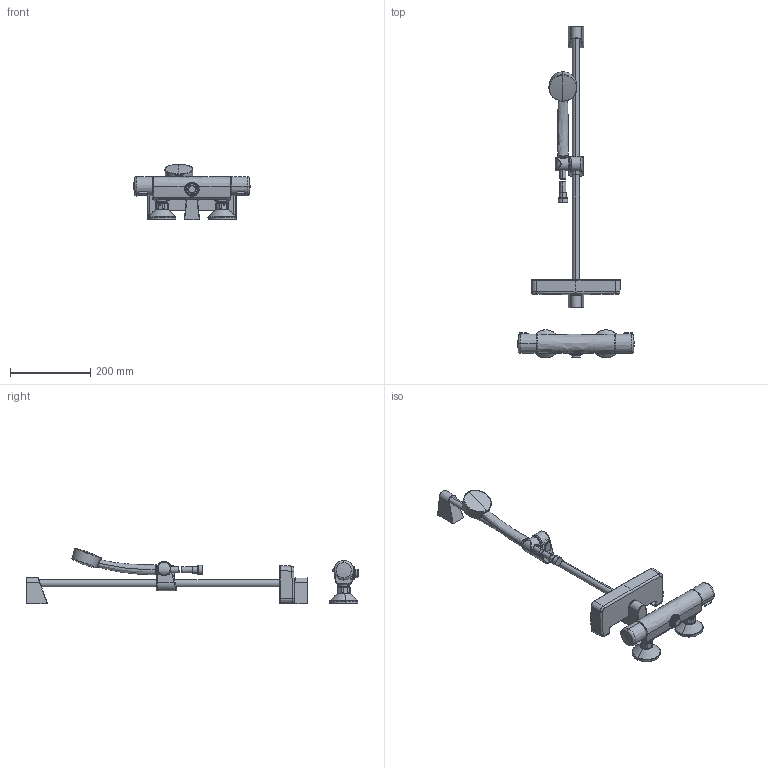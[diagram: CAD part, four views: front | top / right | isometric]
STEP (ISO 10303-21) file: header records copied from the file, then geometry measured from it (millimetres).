
FILE_DESCRIPTION (( 'STEP AP203' ), '1' );
FILE_NAME ('7412G-33(2023).STEP', '2023-05-26T08:13:16', ( '' ), ( '' ), 'SwSTEP 2.0', 'SolidWorks 2016', '' );
FILE_SCHEMA (( 'CONFIG_CONTROL_DESIGN' ));
Length unit declared in the file: millimetre
Products named in the file (1): 7412G-33(2023)
Bounding box: 289.19 x 825.9 x 137.63 mm (x, y, z)
Volume: 1479624.1 mm3; surface area: 279151.2 mm2
Topology: 23 solids, 23 shells, 581 faces, 1291 edges, 775 vertices
Faces by surface type: bspline 218, cylinder 120, plane 109, torus 63, cone 63, sphere 8
Entity records: 33342 total; most frequent: CARTESIAN_POINT 22104, ORIENTED_EDGE 2574, DIRECTION 1976, EDGE_CURVE 1287, AXIS2_PLACEMENT_3D 861, VERTEX_POINT 775, EDGE_LOOP 604, ADVANCED_FACE 581
